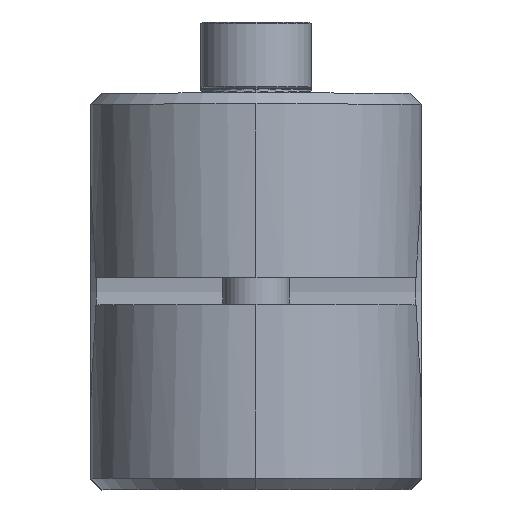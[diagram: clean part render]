
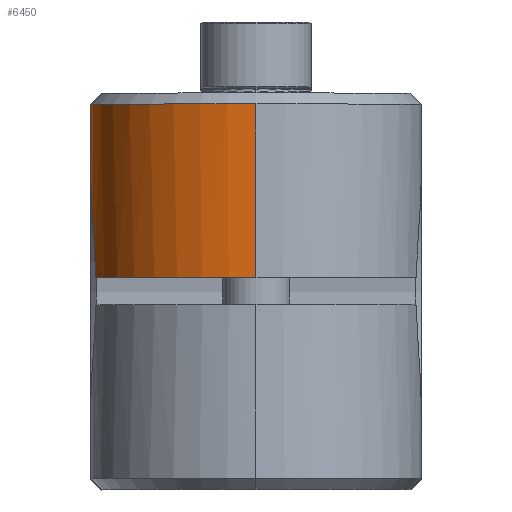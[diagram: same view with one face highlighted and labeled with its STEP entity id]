
A CAD part, top view. The second image highlights one B-rep face of the part: STEP entity #6450.
In plain terms, the highlighted cylindrical face has radius 15 mm (diameter 30 mm), a partial arc.
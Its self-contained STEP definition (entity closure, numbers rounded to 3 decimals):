
#305 = VECTOR ( 'NONE', #6984, 1000. ) ;
#524 = CIRCLE ( 'NONE', #8963, 15. ) ;
#603 = CIRCLE ( 'NONE', #7214, 15. ) ;
#680 = DIRECTION ( 'NONE',  ( 0., 0., -1. ) ) ;
#909 = EDGE_CURVE ( 'NONE', #5324, #6945, #5647, .T. ) ;
#952 = CARTESIAN_POINT ( 'NONE',  ( 14.07, 12.866, -4.338 ) ) ;
#1139 = CARTESIAN_POINT ( 'NONE',  ( 13.503, 12.995, -1.25 ) ) ;
#1201 = ORIENTED_EDGE ( 'NONE', *, *, #6070, .T. ) ;
#1432 = CARTESIAN_POINT ( 'NONE',  ( 17.071, 27.564, -1.25 ) ) ;
#1714 = VECTOR ( 'NONE', #8289, 1000. ) ;
#2022 = DIRECTION ( 'NONE',  ( -1., 0., 0. ) ) ;
#2141 = DIRECTION ( 'NONE',  ( -1., 0., 0. ) ) ;
#2416 = LINE ( 'NONE', #6759, #1714 ) ;
#2437 = EDGE_CURVE ( 'NONE', #4283, #2595, #524, .T. ) ;
#2504 = LINE ( 'NONE', #4044, #305 ) ;
#2540 = CARTESIAN_POINT ( 'NONE',  ( 16.103, 12.59, -8.573 ) ) ;
#2595 = VERTEX_POINT ( 'NONE', #4195 ) ;
#3053 = EDGE_CURVE ( 'NONE', #4283, #6945, #2416, .T. ) ;
#3205 = CARTESIAN_POINT ( 'NONE',  ( 14.923, 12.716, -6.534 ) ) ;
#3610 = ORIENTED_EDGE ( 'NONE', *, *, #3053, .T. ) ;
#3888 = CARTESIAN_POINT ( 'NONE',  ( 16.562, 12.564, -9.209 ) ) ;
#4044 = CARTESIAN_POINT ( 'NONE',  ( 2.071, 27.564, -1.25 ) ) ;
#4195 = CARTESIAN_POINT ( 'NONE',  ( 2.071, 27.564, -17. ) ) ;
#4267 = CYLINDRICAL_SURFACE ( 'NONE', #6086, 15. ) ;
#4271 = DIRECTION ( 'NONE',  ( -1., 0., 0. ) ) ;
#4283 = VERTEX_POINT ( 'NONE', #4441 ) ;
#4441 = CARTESIAN_POINT ( 'NONE',  ( 17.071, 12.564, -17. ) ) ;
#4610 = CARTESIAN_POINT ( 'NONE',  ( 13.696, 12.948, -2.814 ) ) ;
#4699 = ORIENTED_EDGE ( 'NONE', *, *, #8401, .F. ) ;
#5040 = DIRECTION ( 'NONE',  ( 0., 0., 1. ) ) ;
#5228 = VERTEX_POINT ( 'NONE', #6050 ) ;
#5324 = VERTEX_POINT ( 'NONE', #1139 ) ;
#5647 = B_SPLINE_CURVE_WITH_KNOTS ( 'NONE', 3,
 ( #9087, #8358, #4610, #952, #6153, #3205, #9137, #2540, #3888, #6974 ),
 .UNSPECIFIED., .F., .F.,
 ( 4, 2, 2, 2, 4 ),
 ( 0., 0.002, 0.005, 0.007, 0.009 ),
 .UNSPECIFIED. ) ;
#5809 = CARTESIAN_POINT ( 'NONE',  ( 17.071, 27.564, -1.25 ) ) ;
#5879 = CARTESIAN_POINT ( 'NONE',  ( 17.071, 27.564, -17. ) ) ;
#5921 = EDGE_LOOP ( 'NONE', ( #4699, #1201, #6361, #3610, #8146 ) ) ;
#5975 = CARTESIAN_POINT ( 'NONE',  ( 17.071, 12.564, -9.811 ) ) ;
#6050 = CARTESIAN_POINT ( 'NONE',  ( 2.071, 27.564, -1.25 ) ) ;
#6070 = EDGE_CURVE ( 'NONE', #5228, #2595, #2504, .T. ) ;
#6086 = AXIS2_PLACEMENT_3D ( 'NONE', #5809, #8729, #2141 ) ;
#6153 = CARTESIAN_POINT ( 'NONE',  ( 14.317, 12.816, -5.087 ) ) ;
#6361 = ORIENTED_EDGE ( 'NONE', *, *, #2437, .F. ) ;
#6450 = ADVANCED_FACE ( 'NONE', ( #9375 ), #4267, .T. ) ;
#6759 = CARTESIAN_POINT ( 'NONE',  ( 17.071, 12.564, 0. ) ) ;
#6945 = VERTEX_POINT ( 'NONE', #5975 ) ;
#6974 = CARTESIAN_POINT ( 'NONE',  ( 17.071, 12.564, -9.811 ) ) ;
#6984 = DIRECTION ( 'NONE',  ( 0., 0., -1. ) ) ;
#7214 = AXIS2_PLACEMENT_3D ( 'NONE', #1432, #5040, #4271 ) ;
#8146 = ORIENTED_EDGE ( 'NONE', *, *, #909, .F. ) ;
#8289 = DIRECTION ( 'NONE',  ( 0., 0., 1. ) ) ;
#8358 = CARTESIAN_POINT ( 'NONE',  ( 13.569, 12.979, -2.035 ) ) ;
#8401 = EDGE_CURVE ( 'NONE', #5228, #5324, #603, .T. ) ;
#8729 = DIRECTION ( 'NONE',  ( 0., 0., -1. ) ) ;
#8963 = AXIS2_PLACEMENT_3D ( 'NONE', #5879, #680, #2022 ) ;
#9087 = CARTESIAN_POINT ( 'NONE',  ( 13.503, 12.995, -1.25 ) ) ;
#9137 = CARTESIAN_POINT ( 'NONE',  ( 15.281, 12.666, -7.234 ) ) ;
#9375 = FACE_OUTER_BOUND ( 'NONE', #5921, .T. ) ;
